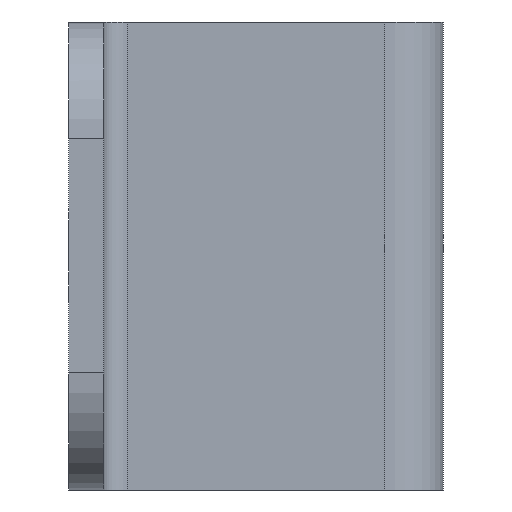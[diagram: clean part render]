
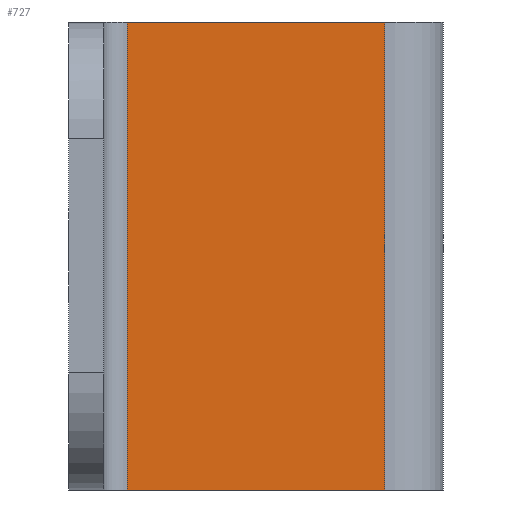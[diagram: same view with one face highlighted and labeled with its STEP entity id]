
A CAD part, left-side view. The second image highlights one B-rep face of the part: STEP entity #727.
In plain terms, the highlighted planar face has unit normal (-1, 0, 0).
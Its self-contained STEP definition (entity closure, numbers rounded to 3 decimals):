
#29 = DIRECTION ( 'NONE',  ( -1., 0., 0. ) ) ;
#73 = LINE ( 'NONE', #353, #1088 ) ;
#107 = DIRECTION ( 'NONE',  ( 0., 1., 0. ) ) ;
#149 = CARTESIAN_POINT ( 'NONE',  ( -43., 14.5, 10. ) ) ;
#183 = VERTEX_POINT ( 'NONE', #1099 ) ;
#206 = EDGE_CURVE ( 'NONE', #1244, #183, #869, .T. ) ;
#224 = VERTEX_POINT ( 'NONE', #1087 ) ;
#247 = CARTESIAN_POINT ( 'NONE',  ( -43., 14.5, 10. ) ) ;
#248 = EDGE_CURVE ( 'NONE', #224, #489, #425, .T. ) ;
#303 = ORIENTED_EDGE ( 'NONE', *, *, #1273, .T. ) ;
#335 = DIRECTION ( 'NONE',  ( 0., 1., 0. ) ) ;
#353 = CARTESIAN_POINT ( 'NONE',  ( -43., 13.5, 10. ) ) ;
#356 = LINE ( 'NONE', #1136, #976 ) ;
#386 = CARTESIAN_POINT ( 'NONE',  ( -43., 14.5, -10. ) ) ;
#422 = EDGE_LOOP ( 'NONE', ( #1208, #789, #693, #303 ) ) ;
#425 = LINE ( 'NONE', #149, #1266 ) ;
#426 = EDGE_CURVE ( 'NONE', #224, #1244, #356, .T. ) ;
#435 = FACE_OUTER_BOUND ( 'NONE', #422, .T. ) ;
#489 = VERTEX_POINT ( 'NONE', #959 ) ;
#536 = AXIS2_PLACEMENT_3D ( 'NONE', #247, #29, #820 ) ;
#539 = VECTOR ( 'NONE', #107, 1000. ) ;
#646 = CARTESIAN_POINT ( 'NONE',  ( -43., 2.5, -10. ) ) ;
#693 = ORIENTED_EDGE ( 'NONE', *, *, #248, .T. ) ;
#727 = ADVANCED_FACE ( 'NONE', ( #435 ), #904, .T. ) ;
#789 = ORIENTED_EDGE ( 'NONE', *, *, #426, .F. ) ;
#820 = DIRECTION ( 'NONE',  ( 0., 0., 1. ) ) ;
#859 = DIRECTION ( 'NONE',  ( 0., 0., -1. ) ) ;
#869 = LINE ( 'NONE', #386, #539 ) ;
#904 = PLANE ( 'NONE',  #536 ) ;
#959 = CARTESIAN_POINT ( 'NONE',  ( -43., 13.5, 10. ) ) ;
#976 = VECTOR ( 'NONE', #859, 1000. ) ;
#1087 = CARTESIAN_POINT ( 'NONE',  ( -43., 2.5, 10. ) ) ;
#1088 = VECTOR ( 'NONE', #1154, 1000. ) ;
#1099 = CARTESIAN_POINT ( 'NONE',  ( -43., 13.5, -10. ) ) ;
#1136 = CARTESIAN_POINT ( 'NONE',  ( -43., 2.5, 10. ) ) ;
#1154 = DIRECTION ( 'NONE',  ( 0., 0., -1. ) ) ;
#1208 = ORIENTED_EDGE ( 'NONE', *, *, #206, .F. ) ;
#1244 = VERTEX_POINT ( 'NONE', #646 ) ;
#1266 = VECTOR ( 'NONE', #335, 1000. ) ;
#1273 = EDGE_CURVE ( 'NONE', #489, #183, #73, .T. ) ;
